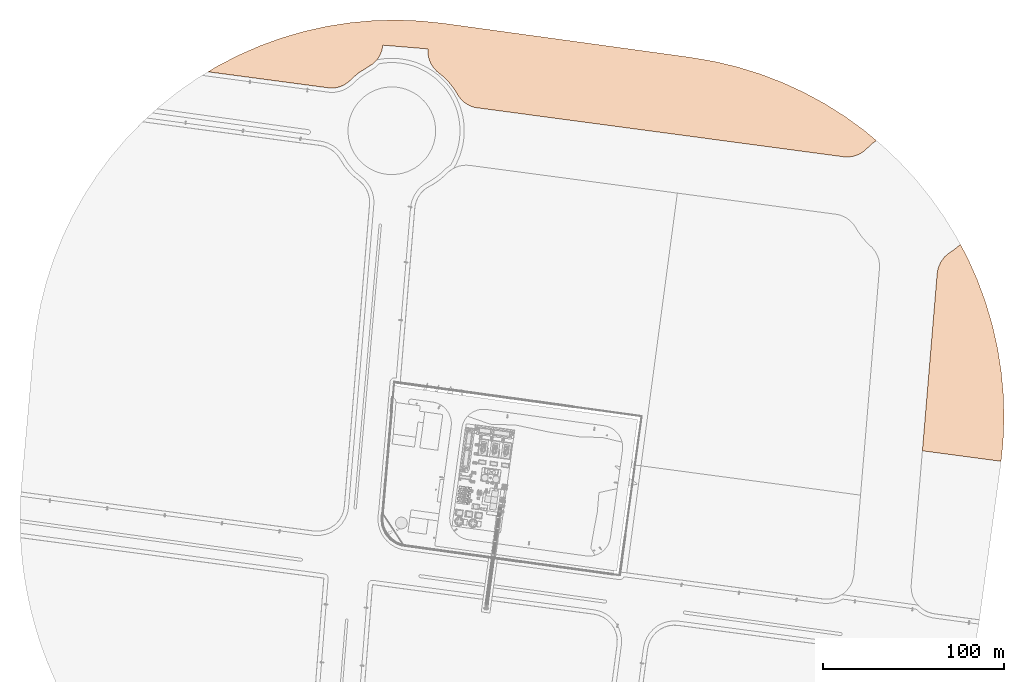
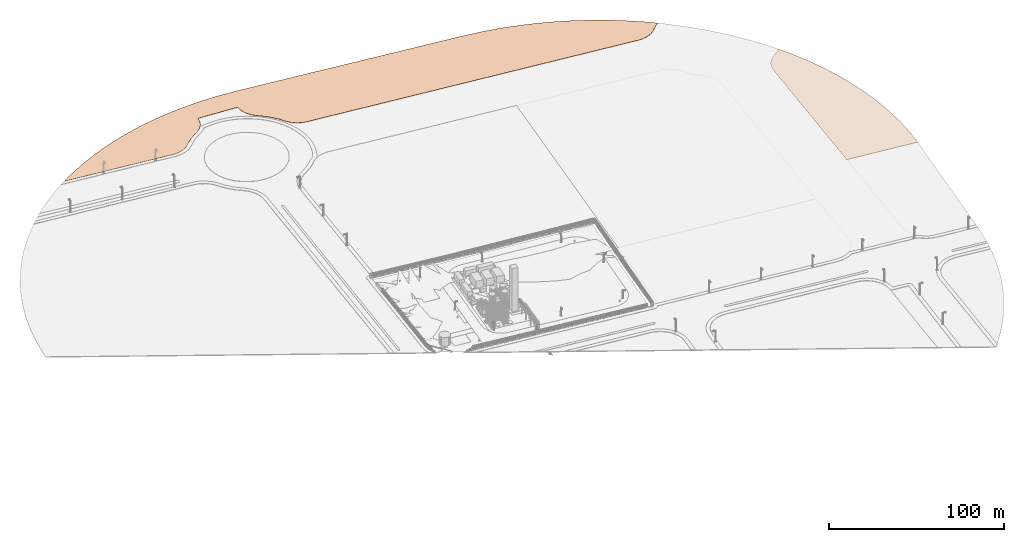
# Not in any storey, part 75 of 75: 2 geographic elements.
"""IFC4 model written with IfcOpenShell, lengths in metres."""

from ifc_helpers import new_model, si_unit, direction, origin, origin_with_axes, place, context, subcontext, project, spatial, triangles, element, save


model = new_model("IFC4")

# Units and contexts
model_context = context("Model", 3, precision=1e-05, world=origin_with_axes(), true_north=direction((0.0, 1.0)))
body_context = subcontext(model_context, "Body", "Model", "MODEL_VIEW")
ifc_project = project(units=[si_unit("AREAUNIT", "SQUARE_METRE"), si_unit("VOLUMEUNIT", "CUBIC_METRE"), si_unit("LENGTHUNIT", "METRE")], contexts=[model_context])

# Site
site_placement = place(None, origin_with_axes())
site = spatial("IfcSite", under=ifc_project, at=site_placement, Name="Parcela industrial Jinhong")

# Geographic elements
geographic_element_1_placement = place(None, origin())
element("IfcGeographicElement", 1, at=geographic_element_1_placement, inside=site, Name="Parcela catastral próxima · 9220805QD2092S", ObjectType="Parcela catastral próxima · 9220805QD2092S", PredefinedType="USERDEFINED", context=body_context, shape_type="Tessellation", body=[
    triangles([(251.57, 233.71, 3.773048), (259.961443, 248.445184, 3.907792), (253.97, 234.06, 3.801274), (248.94, 233.77, 3.7433), (249.369927, 256.132994, 3.807859), (36.22, 267.06, 1.413097), (43.14, 261.64, 1.477329), (39.67, 263.53, 1.442911), (41.34, 262.47, 1.459074), (37.91, 265.03, 1.426899), (19.17, 293.37, 1.289409), (22.19, 283.03, 1.296162), (20.67, 285.48, 1.285414), (19.2, 290.5, 1.282092), (19.71, 287.92, 1.281007), (-23.798743, 307.863789, 0.839446), (-7.34, 289.85, 0.978547), (-9.00032, 287.388263, 0.953098), (-8.89, 287.43, 0.954464), (-11.172045, 285.159549, 0.922454), (-19.02336, 280.19732, 0.81993), (-28.673909, 272.798844, 0.690444), (-24.547771, 275.292586, 0.74402), (-26.695769, 273.763365, 0.715512), (-30.437943, 272.220014, 0.668839), (-32.281664, 271.859399, 0.64691), (-34.468146, 271.730562, 0.621702), (-102.283209, 280.746701, -0.125427), (-97.245224, 283.791201, -0.060012), (-61.695915, 299.409209, 0.385924), (-73.875051, 294.975457, 0.235594), (-49.255173, 303.044791, 0.5371), (-36.605073, 305.866935, 0.688485), (2.067045, 309.351583, 1.137559), (15.017874, 308.836274, 1.283459), (27.908131, 307.483204, 1.426435), (164.558455, 288.644968, 2.930143), (177.457918, 286.434428, 3.070936), (190.185187, 283.384963, 3.207532), (202.685765, 279.509633, 3.339347), (256.58, 234.92, 3.83325), (258.62, 236.01, 3.859357), (260.31, 237.25, 3.881884), (264.88, 241.42, 3.94498), (266.80587, 242.758019, 3.970451), (45.14, 261.02, 1.498418), (33.67, 271.21, 1.395172), (23.95, 281.09, 1.311), (-6.35, 292.28, 0.996289), (-85.741432, 289.762156, 0.08674), (-5.74, 295.45, 1.011685), (-10.889966, 309.026967, 0.989347), (214.906123, 274.825032, 3.465816), (238.298287, 263.111634, 3.700575), (31.03, 274.64, 1.374303), (226.793931, 269.351219, 3.586397), (28.11, 277.66, 1.349155), (-21.525578, 278.165166, 0.786052), (251.57, 233.71, 3.853048), (259.961443, 248.445184, 3.987792), (253.97, 234.06, 3.881274), (248.94, 233.77, 3.8233), (249.369927, 256.132994, 3.887859), (36.22, 267.06, 1.493097), (43.14, 261.64, 1.557329), (39.67, 263.53, 1.522911), (41.34, 262.47, 1.539074), (37.91, 265.03, 1.506899), (19.17, 293.37, 1.369409), (22.19, 283.03, 1.376162), (20.67, 285.48, 1.365414), (19.2, 290.5, 1.362092), (19.71, 287.92, 1.361007), (-23.798743, 307.863789, 0.919446), (-7.34, 289.85, 1.058547), (-9.00032, 287.388263, 1.033098), (-8.89, 287.43, 1.034464), (-11.172045, 285.159549, 1.002454), (-19.02336, 280.19732, 0.89993), (-28.673909, 272.798844, 0.770444), (-24.547771, 275.292586, 0.82402), (-26.695769, 273.763365, 0.795512), (-30.437943, 272.220014, 0.748839), (-32.281664, 271.859399, 0.72691), (-34.468146, 271.730562, 0.701702), (-102.283209, 280.746701, -0.045427), (-97.245224, 283.791201, 0.019988), (-61.695915, 299.409209, 0.465924), (-73.875051, 294.975457, 0.315594), (-49.255173, 303.044791, 0.6171), (-36.605073, 305.866935, 0.768485), (2.067045, 309.351583, 1.217559), (15.017874, 308.836274, 1.363459), (27.908131, 307.483204, 1.506435), (164.558455, 288.644968, 3.010143), (177.457918, 286.434428, 3.150936), (190.185187, 283.384963, 3.287532), (202.685765, 279.509633, 3.419347), (256.58, 234.92, 3.91325), (258.62, 236.01, 3.939357), (260.31, 237.25, 3.961884), (264.88, 241.42, 4.02498), (266.80587, 242.758019, 4.050451), (45.14, 261.02, 1.578418), (33.67, 271.21, 1.475172), (23.95, 281.09, 1.391), (-6.35, 292.28, 1.076289), (-85.741432, 289.762156, 0.16674), (-5.74, 295.45, 1.091685), (-10.889966, 309.026967, 1.069347), (214.906123, 274.825032, 3.545816), (238.298287, 263.111634, 3.780575), (31.03, 274.64, 1.454303), (226.793931, 269.351219, 3.666397), (28.11, 277.66, 1.429155), (-21.525578, 278.165166, 0.866052)], [[1, 2, 3], [2, 4, 5], [6, 7, 8], [7, 9, 8], [8, 10, 6], [11, 12, 13], [14, 13, 15], [13, 14, 11], [16, 17, 18], [17, 19, 18], [16, 20, 21], [22, 23, 24], [23, 22, 25], [23, 26, 27], [27, 28, 29], [30, 27, 31], [27, 30, 32], [21, 33, 16], [11, 34, 35], [11, 35, 36], [4, 37, 38], [4, 39, 40], [41, 2, 42], [43, 2, 44], [44, 2, 45], [3, 2, 41], [4, 2, 1], [7, 6, 46], [46, 6, 47], [12, 11, 48], [17, 16, 49], [26, 23, 25], [50, 27, 29], [31, 27, 50], [34, 51, 52], [46, 36, 37], [4, 40, 53], [42, 2, 43], [5, 4, 54], [36, 47, 55], [36, 48, 11], [16, 18, 20], [33, 23, 27], [33, 27, 32], [52, 51, 16], [54, 4, 56], [56, 4, 53], [57, 36, 55], [48, 36, 57], [23, 33, 58], [39, 4, 38], [47, 36, 46], [58, 33, 21], [37, 4, 46], [49, 16, 51], [34, 11, 51], [61, 60, 59], [63, 62, 60], [66, 65, 64], [66, 67, 65], [64, 68, 66], [71, 70, 69], [73, 71, 72], [69, 72, 71], [76, 75, 74], [76, 77, 75], [79, 78, 74], [82, 81, 80], [83, 80, 81], [85, 84, 81], [87, 86, 85], [89, 85, 88], [90, 88, 85], [74, 91, 79], [93, 92, 69], [94, 93, 69], [96, 95, 62], [98, 97, 62], [100, 60, 99], [102, 60, 101], [103, 60, 102], [99, 60, 61], [59, 60, 62], [104, 64, 65], [105, 64, 104], [106, 69, 70], [107, 74, 75], [83, 81, 84], [87, 85, 108], [108, 85, 89], [110, 109, 92], [95, 94, 104], [111, 98, 62], [101, 60, 100], [112, 62, 63], [113, 105, 94], [69, 106, 94], [78, 76, 74], [85, 81, 91], [90, 85, 91], [74, 109, 110], [114, 62, 112], [111, 62, 114], [113, 94, 115], [115, 94, 106], [116, 91, 81], [96, 62, 97], [104, 94, 105], [79, 91, 116], [104, 62, 95], [109, 74, 107], [109, 69, 92], [61, 59, 3], [3, 59, 1], [59, 62, 1], [1, 62, 4], [63, 60, 5], [5, 60, 2], [65, 67, 7], [7, 67, 9], [67, 66, 9], [9, 66, 8], [68, 64, 10], [10, 64, 6], [66, 68, 8], [8, 68, 10], [70, 71, 12], [12, 71, 13], [72, 69, 14], [14, 69, 11], [71, 73, 13], [13, 73, 15], [73, 72, 15], [15, 72, 14], [75, 77, 17], [17, 77, 19], [77, 76, 19], [19, 76, 18], [76, 78, 18], [18, 78, 20], [78, 79, 20], [20, 79, 21], [82, 80, 24], [24, 80, 22], [81, 82, 23], [23, 82, 24], [80, 83, 22], [22, 83, 25], [83, 84, 25], [25, 84, 26], [84, 85, 26], [26, 85, 27], [85, 86, 27], [27, 86, 28], [86, 87, 28], [28, 87, 29], [89, 88, 31], [31, 88, 30], [88, 90, 30], [30, 90, 32], [91, 74, 33], [33, 74, 16], [90, 91, 32], [32, 91, 33], [92, 93, 34], [34, 93, 35], [93, 94, 35], [35, 94, 36], [94, 95, 36], [36, 95, 37], [95, 96, 37], [37, 96, 38], [96, 97, 38], [38, 97, 39], [97, 98, 39], [39, 98, 40], [99, 61, 41], [41, 61, 3], [100, 99, 42], [42, 99, 41], [101, 100, 43], [43, 100, 42], [102, 101, 44], [44, 101, 43], [60, 103, 2], [2, 103, 45], [103, 102, 45], [45, 102, 44], [62, 104, 4], [4, 104, 46], [104, 65, 46], [46, 65, 7], [64, 105, 6], [6, 105, 47], [106, 70, 48], [48, 70, 12], [107, 75, 49], [49, 75, 17], [87, 108, 29], [29, 108, 50], [108, 89, 50], [50, 89, 31], [69, 109, 11], [11, 109, 51], [109, 107, 51], [51, 107, 49], [74, 110, 16], [16, 110, 52], [110, 92, 52], [52, 92, 34], [98, 111, 40], [40, 111, 53], [112, 63, 54], [54, 63, 5], [105, 113, 47], [47, 113, 55], [111, 114, 53], [53, 114, 56], [114, 112, 56], [56, 112, 54], [115, 106, 57], [57, 106, 48], [113, 115, 55], [55, 115, 57], [79, 116, 21], [21, 116, 58], [116, 81, 58], [58, 81, 23]], closed=True),
])
geographic_element_2_placement = place(None, origin())
element("IfcGeographicElement", 2, at=geographic_element_2_placement, inside=site, Name="Parcela catastral próxima · 9716701QD2091N", ObjectType="Parcela catastral próxima · 9716701QD2091N", PredefinedType="USERDEFINED", context=body_context, shape_type="Tessellation", body=[
    triangles([(317.154725, 177.88356, 4.369911), (302.25, 175.66, 4.194483), (304.41, 178.57, 4.226811), (306.12, 180.12, 4.250393), (310.99, 183.53, 4.314873), (313.148826, 185.489016, 4.34465), (300.35, 169.5, 4.15644), (322.483405, 165.929992, 4.398613), (327.018884, 153.653509, 4.417433), (292.18, 71.47, 3.801962), (333.636032, 128.343226, 4.425148), (335.689366, 115.417807, 4.41401), (336.892949, 102.385769, 4.392924), (337.241628, 89.302916, 4.361981), (336.73391, 76.225269, 4.321313), (335.630392, 65.678649, 4.280623), (300.83, 172.21, 4.169129), (330.74174, 141.106678, 4.426291), (317.154725, 177.88356, 4.449911), (302.25, 175.66, 4.274483), (304.41, 178.57, 4.306811), (306.12, 180.12, 4.330393), (310.99, 183.53, 4.394873), (313.148826, 185.489016, 4.42465), (300.35, 169.5, 4.23644), (322.483405, 165.929992, 4.478613), (327.018884, 153.653509, 4.497433), (292.18, 71.47, 3.881962), (333.636032, 128.343226, 4.505148), (335.689366, 115.417807, 4.49401), (336.892949, 102.385769, 4.472924), (337.241628, 89.302916, 4.441981), (336.73391, 76.225269, 4.401313), (335.630392, 65.678649, 4.360623), (300.83, 172.21, 4.249129), (330.74174, 141.106678, 4.506291)], [[1, 2, 3], [1, 4, 5], [5, 6, 1], [7, 8, 9], [10, 11, 12], [10, 12, 13], [10, 14, 15], [15, 16, 10], [2, 1, 17], [1, 3, 4], [7, 1, 8], [7, 11, 10], [14, 10, 13], [17, 1, 7], [7, 9, 18], [11, 7, 18], [21, 20, 19], [23, 22, 19], [19, 24, 23], [27, 26, 25], [30, 29, 28], [31, 30, 28], [33, 32, 28], [28, 34, 33], [35, 19, 20], [22, 21, 19], [26, 19, 25], [28, 29, 25], [31, 28, 32], [25, 19, 35], [36, 27, 25], [36, 25, 29], [20, 21, 2], [2, 21, 3], [21, 22, 3], [3, 22, 4], [22, 23, 4], [4, 23, 5], [24, 19, 6], [6, 19, 1], [23, 24, 5], [5, 24, 6], [19, 26, 1], [1, 26, 8], [26, 27, 8], [8, 27, 9], [28, 25, 10], [10, 25, 7], [29, 30, 11], [11, 30, 12], [30, 31, 12], [12, 31, 13], [31, 32, 13], [13, 32, 14], [32, 33, 14], [14, 33, 15], [34, 28, 16], [16, 28, 10], [33, 34, 15], [15, 34, 16], [35, 20, 17], [17, 20, 2], [25, 35, 7], [7, 35, 17], [27, 36, 9], [9, 36, 18], [36, 29, 18], [18, 29, 11]], closed=True),
])

save(model, "model.ifc")
